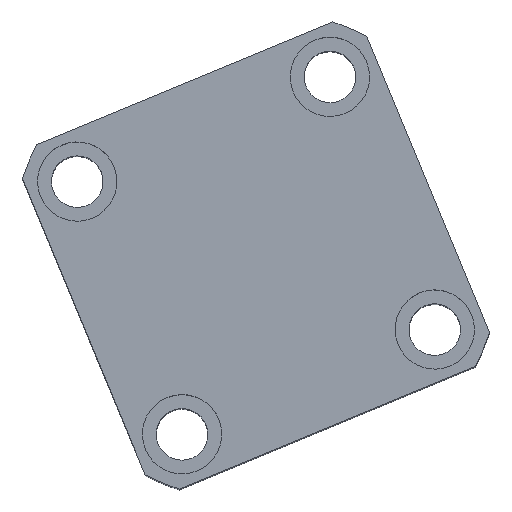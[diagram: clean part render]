
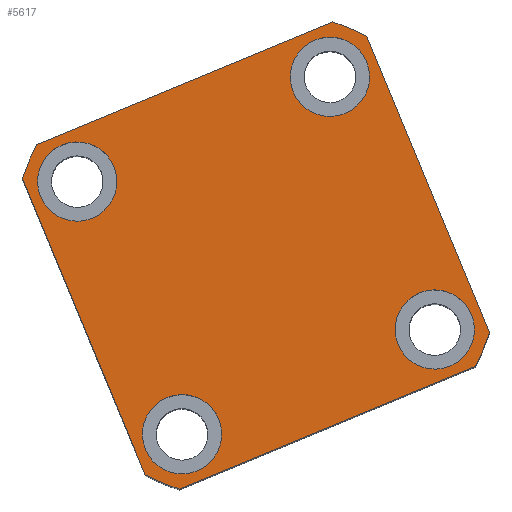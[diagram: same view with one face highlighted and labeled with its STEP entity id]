
A CAD part, top view. The second image highlights one B-rep face of the part: STEP entity #5617.
In plain terms, the highlighted planar face has unit normal (0, 0, 1) as drawn and (0, 0, -1) by its records, which use the part's own axes.
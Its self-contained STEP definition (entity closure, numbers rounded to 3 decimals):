
#107 = CARTESIAN_POINT ( 'NONE',  ( -47., -47., 0. ) ) ;
#345 = CARTESIAN_POINT ( 'NONE',  ( 0., 0., 0. ) ) ;
#358 = VERTEX_POINT ( 'NONE', #11939 ) ;
#504 = DIRECTION ( 'NONE',  ( 0., 0., -1. ) ) ;
#551 = CIRCLE ( 'NONE', #7336, 10. ) ;
#570 = AXIS2_PLACEMENT_3D ( 'NONE', #8664, #504, #10050 ) ;
#881 = CIRCLE ( 'NONE', #9807, 62. ) ;
#947 = DIRECTION ( 'NONE',  ( -1., 0., 0. ) ) ;
#1072 = CARTESIAN_POINT ( 'NONE',  ( -47., -40.435, 0. ) ) ;
#1073 = LINE ( 'NONE', #3629, #14739 ) ;
#1113 = CARTESIAN_POINT ( 'NONE',  ( -40.435, 47., 0. ) ) ;
#1620 = LINE ( 'NONE', #107, #15694 ) ;
#1636 = ORIENTED_EDGE ( 'NONE', *, *, #4843, .F. ) ;
#1718 = DIRECTION ( 'NONE',  ( 1., 0., 0. ) ) ;
#1729 = EDGE_CURVE ( 'NONE', #12554, #4905, #6744, .T. ) ;
#1861 = ORIENTED_EDGE ( 'NONE', *, *, #12424, .F. ) ;
#1986 = CARTESIAN_POINT ( 'NONE',  ( 0., 0., 0. ) ) ;
#2027 = AXIS2_PLACEMENT_3D ( 'NONE', #3973, #13521, #5357 ) ;
#2044 = PLANE ( 'NONE',  #15089 ) ;
#2126 = CIRCLE ( 'NONE', #3486, 10. ) ;
#2213 = FACE_BOUND ( 'NONE', #10333, .T. ) ;
#2613 = CARTESIAN_POINT ( 'NONE',  ( 34.5, -34.5, 0. ) ) ;
#3120 = EDGE_LOOP ( 'NONE', ( #10787, #1636 ) ) ;
#3200 = VERTEX_POINT ( 'NONE', #1072 ) ;
#3285 = ORIENTED_EDGE ( 'NONE', *, *, #4177, .F. ) ;
#3311 = CARTESIAN_POINT ( 'NONE',  ( 0., 0., 0. ) ) ;
#3361 = DIRECTION ( 'NONE',  ( 1., 0., 0. ) ) ;
#3395 = VERTEX_POINT ( 'NONE', #4134 ) ;
#3440 = CARTESIAN_POINT ( 'NONE',  ( -47., 40.435, 0. ) ) ;
#3462 = EDGE_CURVE ( 'NONE', #9505, #358, #3969, .T. ) ;
#3486 = AXIS2_PLACEMENT_3D ( 'NONE', #15732, #7535, #17124 ) ;
#3629 = CARTESIAN_POINT ( 'NONE',  ( -47., 47., 0. ) ) ;
#3920 = DIRECTION ( 'NONE',  ( -1., 0., 0. ) ) ;
#3969 = LINE ( 'NONE', #6879, #6753 ) ;
#3973 = CARTESIAN_POINT ( 'NONE',  ( -34.5, 34.5, 0. ) ) ;
#4002 = DIRECTION ( 'NONE',  ( -1., 0., 0. ) ) ;
#4100 = EDGE_CURVE ( 'NONE', #9993, #11055, #12304, .T. ) ;
#4134 = CARTESIAN_POINT ( 'NONE',  ( -44.5, 34.5, 0. ) ) ;
#4154 = CIRCLE ( 'NONE', #9485, 10. ) ;
#4177 = EDGE_CURVE ( 'NONE', #7676, #7073, #551, .T. ) ;
#4354 = CARTESIAN_POINT ( 'NONE',  ( 0., 0., 0. ) ) ;
#4620 = EDGE_CURVE ( 'NONE', #16089, #11957, #1620, .T. ) ;
#4705 = DIRECTION ( 'NONE',  ( 1., 0., 0. ) ) ;
#4808 = DIRECTION ( 'NONE',  ( 1., 0., 0. ) ) ;
#4843 = EDGE_CURVE ( 'NONE', #5970, #9091, #8433, .T. ) ;
#4857 = ORIENTED_EDGE ( 'NONE', *, *, #12224, .F. ) ;
#4905 = VERTEX_POINT ( 'NONE', #11265 ) ;
#5097 = ORIENTED_EDGE ( 'NONE', *, *, #15940, .F. ) ;
#5357 = DIRECTION ( 'NONE',  ( -1., 0., 0. ) ) ;
#5617 = ADVANCED_FACE ( 'NONE', ( #2213, #5888, #12725, #9507, #9056 ), #2044, .F. ) ;
#5724 = DIRECTION ( 'NONE',  ( 1., 0., 0. ) ) ;
#5888 = FACE_BOUND ( 'NONE', #7837, .T. ) ;
#5901 = CARTESIAN_POINT ( 'NONE',  ( 34.5, 34.5, 0. ) ) ;
#5970 = VERTEX_POINT ( 'NONE', #10697 ) ;
#6003 = CIRCLE ( 'NONE', #17024, 62. ) ;
#6239 = CIRCLE ( 'NONE', #2027, 10. ) ;
#6259 = AXIS2_PLACEMENT_3D ( 'NONE', #5901, #15451, #7269 ) ;
#6629 = CIRCLE ( 'NONE', #11177, 62. ) ;
#6735 = AXIS2_PLACEMENT_3D ( 'NONE', #345, #9901, #1718 ) ;
#6744 = CIRCLE ( 'NONE', #12002, 10. ) ;
#6753 = VECTOR ( 'NONE', #8233, 1000. ) ;
#6782 = CARTESIAN_POINT ( 'NONE',  ( 34.5, 34.5, 0. ) ) ;
#6879 = CARTESIAN_POINT ( 'NONE',  ( 47., 47., 0. ) ) ;
#7073 = VERTEX_POINT ( 'NONE', #15585 ) ;
#7148 = CARTESIAN_POINT ( 'NONE',  ( 40.435, -47., 0. ) ) ;
#7266 = CARTESIAN_POINT ( 'NONE',  ( -40.435, -47., 0. ) ) ;
#7269 = DIRECTION ( 'NONE',  ( -1., 0., 0. ) ) ;
#7336 = AXIS2_PLACEMENT_3D ( 'NONE', #16001, #7795, #17383 ) ;
#7456 = EDGE_LOOP ( 'NONE', ( #13124, #15785 ) ) ;
#7518 = EDGE_CURVE ( 'NONE', #4905, #12554, #4154, .T. ) ;
#7535 = DIRECTION ( 'NONE',  ( 0., 0., -1. ) ) ;
#7676 = VERTEX_POINT ( 'NONE', #9610 ) ;
#7795 = DIRECTION ( 'NONE',  ( 0., 0., -1. ) ) ;
#7837 = EDGE_LOOP ( 'NONE', ( #3285, #9050 ) ) ;
#7955 = CIRCLE ( 'NONE', #6735, 62. ) ;
#8039 = EDGE_CURVE ( 'NONE', #9091, #5970, #12890, .T. ) ;
#8145 = DIRECTION ( 'NONE',  ( -1., 0., 0. ) ) ;
#8233 = DIRECTION ( 'NONE',  ( 0., 1., 0. ) ) ;
#8433 = CIRCLE ( 'NONE', #6259, 10. ) ;
#8557 = ORIENTED_EDGE ( 'NONE', *, *, #9424, .F. ) ;
#8635 = EDGE_CURVE ( 'NONE', #15110, #3395, #13254, .T. ) ;
#8664 = CARTESIAN_POINT ( 'NONE',  ( -34.5, 34.5, 0. ) ) ;
#8805 = DIRECTION ( 'NONE',  ( 0., 0., -1. ) ) ;
#8841 = CARTESIAN_POINT ( 'NONE',  ( 0., 0., 0. ) ) ;
#9050 = ORIENTED_EDGE ( 'NONE', *, *, #12577, .F. ) ;
#9056 = FACE_OUTER_BOUND ( 'NONE', #16440, .T. ) ;
#9091 = VERTEX_POINT ( 'NONE', #12472 ) ;
#9119 = CARTESIAN_POINT ( 'NONE',  ( -47., 47., 0. ) ) ;
#9424 = EDGE_CURVE ( 'NONE', #11957, #9505, #881, .T. ) ;
#9485 = AXIS2_PLACEMENT_3D ( 'NONE', #2613, #12174, #4002 ) ;
#9505 = VERTEX_POINT ( 'NONE', #17115 ) ;
#9507 = FACE_BOUND ( 'NONE', #3120, .T. ) ;
#9610 = CARTESIAN_POINT ( 'NONE',  ( -44.5, -34.5, 0. ) ) ;
#9807 = AXIS2_PLACEMENT_3D ( 'NONE', #1986, #11542, #3361 ) ;
#9901 = DIRECTION ( 'NONE',  ( 0., 0., 1. ) ) ;
#9993 = VERTEX_POINT ( 'NONE', #15696 ) ;
#10039 = VERTEX_POINT ( 'NONE', #3440 ) ;
#10050 = DIRECTION ( 'NONE',  ( -1., 0., 0. ) ) ;
#10333 = EDGE_LOOP ( 'NONE', ( #12573, #16853 ) ) ;
#10697 = CARTESIAN_POINT ( 'NONE',  ( 44.5, 34.5, 0. ) ) ;
#10787 = ORIENTED_EDGE ( 'NONE', *, *, #8039, .F. ) ;
#10844 = CARTESIAN_POINT ( 'NONE',  ( 34.5, -34.5, 0. ) ) ;
#10908 = ORIENTED_EDGE ( 'NONE', *, *, #11810, .F. ) ;
#11055 = VERTEX_POINT ( 'NONE', #1113 ) ;
#11177 = AXIS2_PLACEMENT_3D ( 'NONE', #3311, #12874, #4705 ) ;
#11265 = CARTESIAN_POINT ( 'NONE',  ( 44.5, -34.5, 0. ) ) ;
#11433 = VECTOR ( 'NONE', #947, 1000. ) ;
#11465 = ORIENTED_EDGE ( 'NONE', *, *, #4620, .F. ) ;
#11542 = DIRECTION ( 'NONE',  ( 0., 0., 1. ) ) ;
#11731 = CARTESIAN_POINT ( 'NONE',  ( -24.5, 34.5, 0. ) ) ;
#11804 = DIRECTION ( 'NONE',  ( 0., -1., 0. ) ) ;
#11810 = EDGE_CURVE ( 'NONE', #3200, #16089, #6003, .T. ) ;
#11939 = CARTESIAN_POINT ( 'NONE',  ( 47., 40.435, 0. ) ) ;
#11957 = VERTEX_POINT ( 'NONE', #7148 ) ;
#12002 = AXIS2_PLACEMENT_3D ( 'NONE', #10844, #8805, #3920 ) ;
#12174 = DIRECTION ( 'NONE',  ( 0., 0., -1. ) ) ;
#12224 = EDGE_CURVE ( 'NONE', #10039, #3200, #1073, .T. ) ;
#12304 = LINE ( 'NONE', #9119, #11433 ) ;
#12412 = DIRECTION ( 'NONE',  ( 1., 0., 0. ) ) ;
#12424 = EDGE_CURVE ( 'NONE', #11055, #10039, #6629, .T. ) ;
#12472 = CARTESIAN_POINT ( 'NONE',  ( 24.5, 34.5, 0. ) ) ;
#12493 = ORIENTED_EDGE ( 'NONE', *, *, #4100, .F. ) ;
#12554 = VERTEX_POINT ( 'NONE', #12931 ) ;
#12573 = ORIENTED_EDGE ( 'NONE', *, *, #17680, .F. ) ;
#12577 = EDGE_CURVE ( 'NONE', #7073, #7676, #2126, .T. ) ;
#12725 = FACE_BOUND ( 'NONE', #7456, .T. ) ;
#12874 = DIRECTION ( 'NONE',  ( 0., 0., 1. ) ) ;
#12890 = CIRCLE ( 'NONE', #14979, 10. ) ;
#12931 = CARTESIAN_POINT ( 'NONE',  ( 24.5, -34.5, 0. ) ) ;
#12982 = DIRECTION ( 'NONE',  ( 0., 0., 1. ) ) ;
#13124 = ORIENTED_EDGE ( 'NONE', *, *, #1729, .F. ) ;
#13254 = CIRCLE ( 'NONE', #570, 10. ) ;
#13521 = DIRECTION ( 'NONE',  ( 0., 0., -1. ) ) ;
#13600 = ORIENTED_EDGE ( 'NONE', *, *, #3462, .F. ) ;
#13896 = DIRECTION ( 'NONE',  ( 0., 0., 1. ) ) ;
#14739 = VECTOR ( 'NONE', #11804, 1000. ) ;
#14979 = AXIS2_PLACEMENT_3D ( 'NONE', #6782, #16341, #8145 ) ;
#15089 = AXIS2_PLACEMENT_3D ( 'NONE', #8841, #12982, #4808 ) ;
#15110 = VERTEX_POINT ( 'NONE', #11731 ) ;
#15451 = DIRECTION ( 'NONE',  ( 0., 0., -1. ) ) ;
#15585 = CARTESIAN_POINT ( 'NONE',  ( -24.5, -34.5, 0. ) ) ;
#15694 = VECTOR ( 'NONE', #12412, 1000. ) ;
#15696 = CARTESIAN_POINT ( 'NONE',  ( 40.435, 47., 0. ) ) ;
#15732 = CARTESIAN_POINT ( 'NONE',  ( -34.5, -34.5, 0. ) ) ;
#15785 = ORIENTED_EDGE ( 'NONE', *, *, #7518, .F. ) ;
#15940 = EDGE_CURVE ( 'NONE', #358, #9993, #7955, .T. ) ;
#16001 = CARTESIAN_POINT ( 'NONE',  ( -34.5, -34.5, 0. ) ) ;
#16089 = VERTEX_POINT ( 'NONE', #7266 ) ;
#16341 = DIRECTION ( 'NONE',  ( 0., 0., -1. ) ) ;
#16440 = EDGE_LOOP ( 'NONE', ( #5097, #13600, #8557, #11465, #10908, #4857, #1861, #12493 ) ) ;
#16853 = ORIENTED_EDGE ( 'NONE', *, *, #8635, .F. ) ;
#17024 = AXIS2_PLACEMENT_3D ( 'NONE', #4354, #13896, #5724 ) ;
#17115 = CARTESIAN_POINT ( 'NONE',  ( 47., -40.435, 0. ) ) ;
#17124 = DIRECTION ( 'NONE',  ( -1., 0., 0. ) ) ;
#17383 = DIRECTION ( 'NONE',  ( -1., 0., 0. ) ) ;
#17680 = EDGE_CURVE ( 'NONE', #3395, #15110, #6239, .T. ) ;
